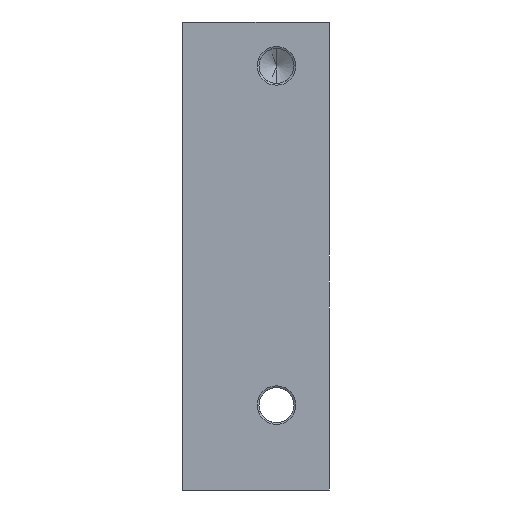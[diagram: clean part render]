
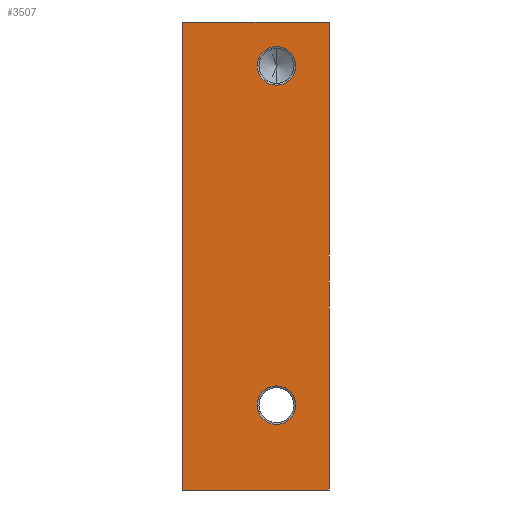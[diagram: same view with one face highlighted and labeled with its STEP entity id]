
A CAD part, front view. The second image highlights one B-rep face of the part: STEP entity #3507.
In plain terms, the highlighted planar face has unit normal (0, -1, 0).
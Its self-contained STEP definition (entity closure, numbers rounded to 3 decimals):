
#15 = FACE_OUTER_BOUND ( 'NONE', #1964, .T. ) ;
#65 = ORIENTED_EDGE ( 'NONE', *, *, #2830, .F. ) ;
#129 = DIRECTION ( 'NONE',  ( 0., 0., 1. ) ) ;
#178 = DIRECTION ( 'NONE',  ( 0., 0., -1. ) ) ;
#213 = EDGE_CURVE ( 'NONE', #2450, #2604, #970, .T. ) ;
#214 = CARTESIAN_POINT ( 'NONE',  ( 0., -70., 40. ) ) ;
#221 = DIRECTION ( 'NONE',  ( 0., -1., 0. ) ) ;
#224 = LINE ( 'NONE', #2277, #2724 ) ;
#233 = CARTESIAN_POINT ( 'NONE',  ( -25., -70., 40. ) ) ;
#257 = CARTESIAN_POINT ( 'NONE',  ( -9., -70., 35.8 ) ) ;
#258 = CARTESIAN_POINT ( 'NONE',  ( -9., -70., -22.2 ) ) ;
#459 = CARTESIAN_POINT ( 'NONE',  ( -25., -70., -40. ) ) ;
#503 = CARTESIAN_POINT ( 'NONE',  ( -9., -70., -28.8 ) ) ;
#521 = EDGE_CURVE ( 'NONE', #1710, #2364, #3041, .T. ) ;
#544 = EDGE_CURVE ( 'NONE', #2450, #3359, #224, .T. ) ;
#670 = AXIS2_PLACEMENT_3D ( 'NONE', #2891, #2032, #1452 ) ;
#690 = CIRCLE ( 'NONE', #814, 3.3 ) ;
#752 = EDGE_CURVE ( 'NONE', #2604, #833, #3086, .T. ) ;
#789 = CARTESIAN_POINT ( 'NONE',  ( -25., -70., -40. ) ) ;
#804 = CARTESIAN_POINT ( 'NONE',  ( -9., -70., 32.5 ) ) ;
#814 = AXIS2_PLACEMENT_3D ( 'NONE', #804, #2045, #2956 ) ;
#833 = VERTEX_POINT ( 'NONE', #233 ) ;
#838 = DIRECTION ( 'NONE',  ( 0., -1., 0. ) ) ;
#869 = AXIS2_PLACEMENT_3D ( 'NONE', #1095, #838, #2046 ) ;
#904 = FACE_BOUND ( 'NONE', #2197, .T. ) ;
#955 = VECTOR ( 'NONE', #1278, 1000. ) ;
#970 = LINE ( 'NONE', #1861, #955 ) ;
#1076 = DIRECTION ( 'NONE',  ( -1., 0., 0. ) ) ;
#1095 = CARTESIAN_POINT ( 'NONE',  ( -9., -70., 32.5 ) ) ;
#1132 = CARTESIAN_POINT ( 'NONE',  ( -9., -70., -25.5 ) ) ;
#1154 = ORIENTED_EDGE ( 'NONE', *, *, #521, .F. ) ;
#1278 = DIRECTION ( 'NONE',  ( 0., 0., 1. ) ) ;
#1379 = LINE ( 'NONE', #459, #1842 ) ;
#1452 = DIRECTION ( 'NONE',  ( 0., 0., -1. ) ) ;
#1563 = VECTOR ( 'NONE', #2560, 1000. ) ;
#1632 = EDGE_CURVE ( 'NONE', #2364, #1710, #690, .T. ) ;
#1710 = VERTEX_POINT ( 'NONE', #2297 ) ;
#1770 = VERTEX_POINT ( 'NONE', #258 ) ;
#1842 = VECTOR ( 'NONE', #129, 1000. ) ;
#1861 = CARTESIAN_POINT ( 'NONE',  ( 0., -70., -40. ) ) ;
#1964 = EDGE_LOOP ( 'NONE', ( #3265, #2685, #3674, #3412 ) ) ;
#2032 = DIRECTION ( 'NONE',  ( 0., -1., 0. ) ) ;
#2045 = DIRECTION ( 'NONE',  ( 0., -1., 0. ) ) ;
#2046 = DIRECTION ( 'NONE',  ( 0., 0., -1. ) ) ;
#2197 = EDGE_LOOP ( 'NONE', ( #1154, #2416 ) ) ;
#2277 = CARTESIAN_POINT ( 'NONE',  ( 0., -70., -40. ) ) ;
#2287 = CIRCLE ( 'NONE', #670, 3.3 ) ;
#2297 = CARTESIAN_POINT ( 'NONE',  ( -9., -70., 29.2 ) ) ;
#2323 = DIRECTION ( 'NONE',  ( 1., 0., 0. ) ) ;
#2325 = EDGE_CURVE ( 'NONE', #1770, #3286, #2459, .T. ) ;
#2338 = EDGE_LOOP ( 'NONE', ( #65, #3112 ) ) ;
#2364 = VERTEX_POINT ( 'NONE', #257 ) ;
#2416 = ORIENTED_EDGE ( 'NONE', *, *, #1632, .F. ) ;
#2450 = VERTEX_POINT ( 'NONE', #3328 ) ;
#2459 = CIRCLE ( 'NONE', #3024, 3.3 ) ;
#2560 = DIRECTION ( 'NONE',  ( -1., 0., 0. ) ) ;
#2604 = VERTEX_POINT ( 'NONE', #214 ) ;
#2685 = ORIENTED_EDGE ( 'NONE', *, *, #544, .F. ) ;
#2697 = EDGE_CURVE ( 'NONE', #3359, #833, #1379, .T. ) ;
#2724 = VECTOR ( 'NONE', #1076, 1000. ) ;
#2791 = CARTESIAN_POINT ( 'NONE',  ( 0., -70., 40. ) ) ;
#2830 = EDGE_CURVE ( 'NONE', #3286, #1770, #2287, .T. ) ;
#2891 = CARTESIAN_POINT ( 'NONE',  ( -9., -70., -25.5 ) ) ;
#2930 = CARTESIAN_POINT ( 'NONE',  ( 0., -70., -40. ) ) ;
#2956 = DIRECTION ( 'NONE',  ( 0., 0., -1. ) ) ;
#3024 = AXIS2_PLACEMENT_3D ( 'NONE', #1132, #221, #178 ) ;
#3041 = CIRCLE ( 'NONE', #869, 3.3 ) ;
#3086 = LINE ( 'NONE', #2791, #1563 ) ;
#3112 = ORIENTED_EDGE ( 'NONE', *, *, #2325, .F. ) ;
#3255 = FACE_BOUND ( 'NONE', #2338, .T. ) ;
#3265 = ORIENTED_EDGE ( 'NONE', *, *, #2697, .F. ) ;
#3271 = PLANE ( 'NONE',  #3330 ) ;
#3286 = VERTEX_POINT ( 'NONE', #503 ) ;
#3328 = CARTESIAN_POINT ( 'NONE',  ( 0., -70., -40. ) ) ;
#3330 = AXIS2_PLACEMENT_3D ( 'NONE', #2930, #3780, #2323 ) ;
#3359 = VERTEX_POINT ( 'NONE', #789 ) ;
#3412 = ORIENTED_EDGE ( 'NONE', *, *, #752, .T. ) ;
#3507 = ADVANCED_FACE ( 'NONE', ( #3255, #904, #15 ), #3271, .T. ) ;
#3674 = ORIENTED_EDGE ( 'NONE', *, *, #213, .T. ) ;
#3780 = DIRECTION ( 'NONE',  ( 0., -1., 0. ) ) ;
